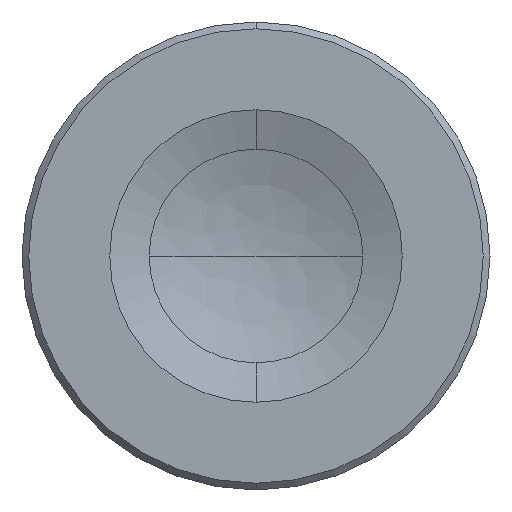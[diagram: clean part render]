
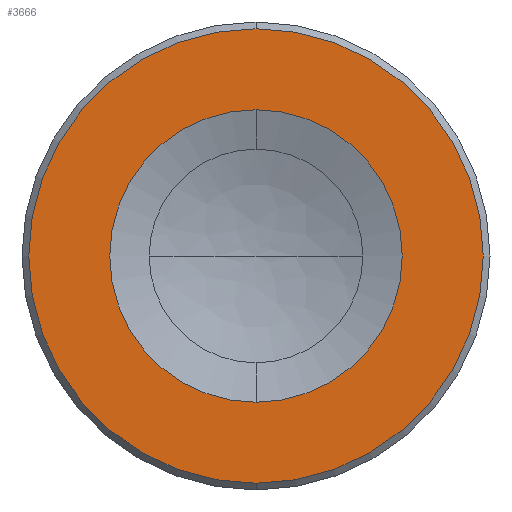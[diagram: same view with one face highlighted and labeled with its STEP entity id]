
A CAD part, left-side view. The second image highlights one B-rep face of the part: STEP entity #3666.
In plain terms, the highlighted planar face has unit normal (-1, 0, 0).
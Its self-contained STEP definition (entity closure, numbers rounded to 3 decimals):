
#190 = CARTESIAN_POINT ( 'NONE',  ( -118715.054, 49145.034, 0. ) ) ;
#196 = DIRECTION ( 'NONE',  ( -1., 0., 0. ) ) ;
#205 = DIRECTION ( 'NONE',  ( 0., 0., 1. ) ) ;
#301 = CARTESIAN_POINT ( 'NONE',  ( -118715.054, 49145.034, 0. ) ) ;
#309 = DIRECTION ( 'NONE',  ( -1., 0., 0. ) ) ;
#335 = DIRECTION ( 'NONE',  ( 0., 0., 1. ) ) ;
#463 = CARTESIAN_POINT ( 'NONE',  ( -118715.054, 49145.034, -4.374 ) ) ;
#471 = CARTESIAN_POINT ( 'NONE',  ( -118715.054, 49145.034, 4.374 ) ) ;
#477 = CARTESIAN_POINT ( 'NONE',  ( -118715.054, 49145.034, 6.798 ) ) ;
#498 = CARTESIAN_POINT ( 'NONE',  ( -118715.054, 49145.034, -6.798 ) ) ;
#874 = EDGE_CURVE ( 'NONE', #2281, #2243, #2874, .T. ) ;
#919 = EDGE_CURVE ( 'NONE', #2287, #2235, #2866, .T. ) ;
#950 = AXIS2_PLACEMENT_3D ( 'NONE', #190, #196, #205 ) ;
#967 = AXIS2_PLACEMENT_3D ( 'NONE', #301, #309, #335 ) ;
#1026 = AXIS2_PLACEMENT_3D ( 'NONE', #4583, #4628, #4630 ) ;
#1255 = AXIS2_PLACEMENT_3D ( 'NONE', #4263, #4264, #4230 ) ;
#1268 = AXIS2_PLACEMENT_3D ( 'NONE', #4112, #4118, #4115 ) ;
#2128 = EDGE_LOOP ( 'NONE', ( #2496, #2480 ) ) ;
#2152 = EDGE_LOOP ( 'NONE', ( #2456, #2504 ) ) ;
#2235 = VERTEX_POINT ( 'NONE', #477 ) ;
#2243 = VERTEX_POINT ( 'NONE', #463 ) ;
#2281 = VERTEX_POINT ( 'NONE', #471 ) ;
#2287 = VERTEX_POINT ( 'NONE', #498 ) ;
#2456 = ORIENTED_EDGE ( 'NONE', *, *, #919, .T. ) ;
#2480 = ORIENTED_EDGE ( 'NONE', *, *, #5712, .F. ) ;
#2496 = ORIENTED_EDGE ( 'NONE', *, *, #874, .F. ) ;
#2504 = ORIENTED_EDGE ( 'NONE', *, *, #5672, .T. ) ;
#2866 = CIRCLE ( 'NONE', #967, 6.798 ) ;
#2874 = CIRCLE ( 'NONE', #950, 4.374 ) ;
#2887 = FACE_OUTER_BOUND ( 'NONE', #2152, .T. ) ;
#2904 = FACE_BOUND ( 'NONE', #2128, .T. ) ;
#3410 = CIRCLE ( 'NONE', #1255, 4.374 ) ;
#3451 = CIRCLE ( 'NONE', #1268, 6.798 ) ;
#3666 = ADVANCED_FACE ( 'NONE', ( #2904, #2887 ), #4626, .F. ) ;
#4112 = CARTESIAN_POINT ( 'NONE',  ( -118715.054, 49145.034, 0. ) ) ;
#4115 = DIRECTION ( 'NONE',  ( 0., 0., 1. ) ) ;
#4118 = DIRECTION ( 'NONE',  ( -1., 0., 0. ) ) ;
#4230 = DIRECTION ( 'NONE',  ( 0., 0., 1. ) ) ;
#4263 = CARTESIAN_POINT ( 'NONE',  ( -118715.054, 49145.034, 0. ) ) ;
#4264 = DIRECTION ( 'NONE',  ( -1., 0., 0. ) ) ;
#4583 = CARTESIAN_POINT ( 'NONE',  ( -118715.054, 0., 0. ) ) ;
#4626 = PLANE ( 'NONE',  #1026 ) ;
#4628 = DIRECTION ( 'NONE',  ( 1., 0., 0. ) ) ;
#4630 = DIRECTION ( 'NONE',  ( 0., 0., -1. ) ) ;
#5672 = EDGE_CURVE ( 'NONE', #2235, #2287, #3451, .T. ) ;
#5712 = EDGE_CURVE ( 'NONE', #2243, #2281, #3410, .T. ) ;
